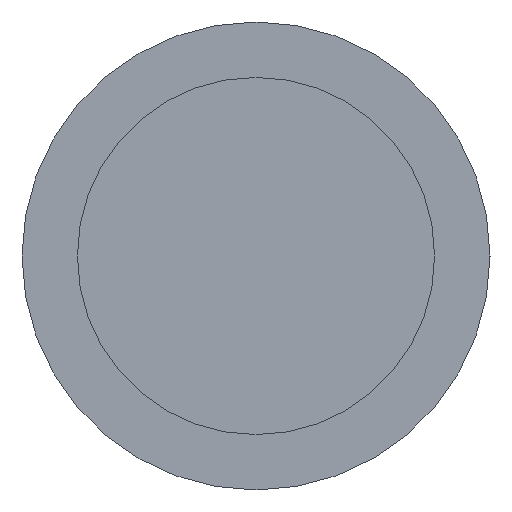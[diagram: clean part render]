
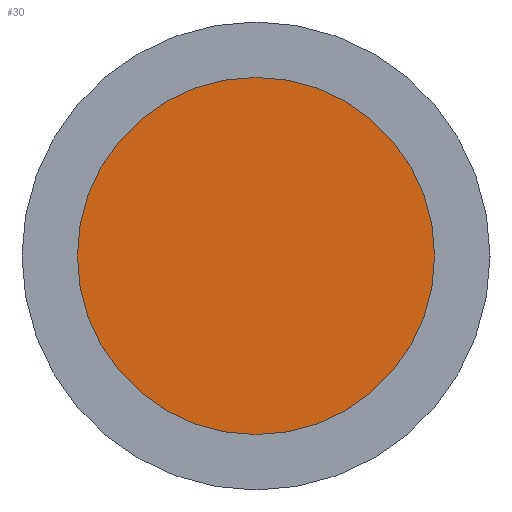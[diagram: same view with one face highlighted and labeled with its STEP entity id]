
A CAD part, left-side view. The second image highlights one B-rep face of the part: STEP entity #30.
In plain terms, the highlighted planar face has unit normal (-1, 0, 0).
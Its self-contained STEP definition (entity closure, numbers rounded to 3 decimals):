
#24=PLANE('',#269);
#30=ADVANCED_FACE('',(#41),#24,.T.);
#41=FACE_OUTER_BOUND('',#53,.F.);
#53=EDGE_LOOP('',(#72,#73));
#72=ORIENTED_EDGE('',*,*,#120,.F.);
#73=ORIENTED_EDGE('',*,*,#121,.F.);
#120=EDGE_CURVE('',#167,#166,#140,.T.);
#121=EDGE_CURVE('',#166,#167,#141,.T.);
#140=CIRCLE('',#253,0.611);
#141=CIRCLE('',#254,0.611);
#166=VERTEX_POINT('',#358);
#167=VERTEX_POINT('',#359);
#253=AXIS2_PLACEMENT_3D('',#360,#284,#285);
#254=AXIS2_PLACEMENT_3D('',#361,#286,#287);
#269=AXIS2_PLACEMENT_3D('',#382,#322,#323);
#284=DIRECTION('',(-1.,0.,0.));
#285=DIRECTION('',(0.,1.,0.));
#286=DIRECTION('',(-1.,0.,0.));
#287=DIRECTION('',(0.,-1.,0.));
#322=DIRECTION('',(-1.,0.,0.));
#323=DIRECTION('',(0.,0.,1.));
#358=CARTESIAN_POINT('',(196.456,43.514,322.135));
#359=CARTESIAN_POINT('',(196.456,44.736,322.135));
#360=CARTESIAN_POINT('',(196.456,44.125,322.135));
#361=CARTESIAN_POINT('',(196.456,44.125,322.135));
#382=CARTESIAN_POINT('',(196.456,43.325,321.335));
